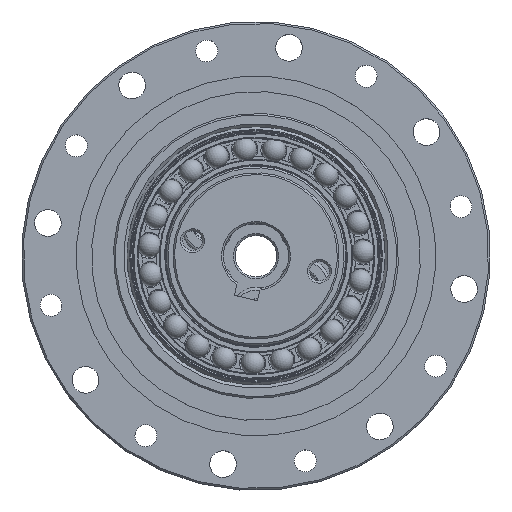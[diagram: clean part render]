
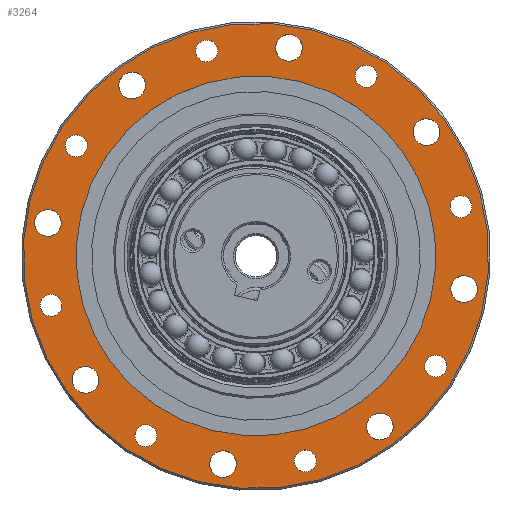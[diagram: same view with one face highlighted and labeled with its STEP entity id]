
A CAD part, top view. The second image highlights one B-rep face of the part: STEP entity #3264.
In plain terms, the highlighted planar face has unit normal (0, 0, 1) as drawn and (0, 1, 0) by its records, which use the part's own axes.
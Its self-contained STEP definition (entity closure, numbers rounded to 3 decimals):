
#2079=PLANE('',#10449);
#2650=FACE_BOUND('',#4513,.T.);
#2651=FACE_BOUND('',#4514,.T.);
#2652=FACE_BOUND('',#4515,.T.);
#2653=FACE_BOUND('',#4516,.T.);
#2654=FACE_BOUND('',#4517,.T.);
#2655=FACE_BOUND('',#4518,.T.);
#2656=FACE_BOUND('',#4519,.T.);
#2657=FACE_BOUND('',#4520,.T.);
#2658=FACE_BOUND('',#4521,.T.);
#2659=FACE_BOUND('',#4522,.T.);
#2660=FACE_BOUND('',#4523,.T.);
#2661=FACE_BOUND('',#4524,.T.);
#2662=FACE_BOUND('',#4525,.T.);
#2663=FACE_BOUND('',#4526,.T.);
#2664=FACE_BOUND('',#4527,.T.);
#2665=FACE_BOUND('',#4528,.T.);
#2666=FACE_BOUND('',#4529,.T.);
#2667=FACE_BOUND('',#4530,.T.);
#3264=ADVANCED_FACE('F28',(#2650,#2651,#2652,#2653,#2654,#2655,#2656,#2657,
#2658,#2659,#2660,#2661,#2662,#2663,#2664,#2665,#2666,#2667),#2079,.T.);
#4513=EDGE_LOOP('',(#7052));
#4514=EDGE_LOOP('',(#7053));
#4515=EDGE_LOOP('',(#7054));
#4516=EDGE_LOOP('',(#7055));
#4517=EDGE_LOOP('',(#7056));
#4518=EDGE_LOOP('',(#7057));
#4519=EDGE_LOOP('',(#7058));
#4520=EDGE_LOOP('',(#7059));
#4521=EDGE_LOOP('',(#7060));
#4522=EDGE_LOOP('',(#7061));
#4523=EDGE_LOOP('',(#7062));
#4524=EDGE_LOOP('',(#7063));
#4525=EDGE_LOOP('',(#7064));
#4526=EDGE_LOOP('',(#7065));
#4527=EDGE_LOOP('',(#7066));
#4528=EDGE_LOOP('',(#7067));
#4529=EDGE_LOOP('',(#7068));
#4530=EDGE_LOOP('',(#7069));
#5121=CIRCLE('',#10346,39.2);
#5149=CIRCLE('',#10399,30.3);
#5151=CIRCLE('',#10402,2.25);
#5153=CIRCLE('',#10405,2.25);
#5155=CIRCLE('',#10408,2.25);
#5157=CIRCLE('',#10411,2.25);
#5159=CIRCLE('',#10414,2.25);
#5161=CIRCLE('',#10417,2.25);
#5163=CIRCLE('',#10420,2.25);
#5165=CIRCLE('',#10423,2.25);
#5167=CIRCLE('',#10426,1.85);
#5169=CIRCLE('',#10429,1.85);
#5171=CIRCLE('',#10432,1.85);
#5173=CIRCLE('',#10435,1.85);
#5175=CIRCLE('',#10438,1.85);
#5177=CIRCLE('',#10441,1.85);
#5179=CIRCLE('',#10444,1.85);
#5181=CIRCLE('',#10448,1.85);
#7052=ORIENTED_EDGE('',*,*,#8732,.T.);
#7053=ORIENTED_EDGE('',*,*,#8824,.T.);
#7054=ORIENTED_EDGE('',*,*,#8818,.T.);
#7055=ORIENTED_EDGE('',*,*,#8812,.T.);
#7056=ORIENTED_EDGE('',*,*,#8806,.T.);
#7057=ORIENTED_EDGE('',*,*,#8800,.T.);
#7058=ORIENTED_EDGE('',*,*,#8794,.T.);
#7059=ORIENTED_EDGE('',*,*,#8788,.T.);
#7060=ORIENTED_EDGE('',*,*,#8782,.T.);
#7061=ORIENTED_EDGE('',*,*,#8779,.F.);
#7062=ORIENTED_EDGE('',*,*,#8785,.T.);
#7063=ORIENTED_EDGE('',*,*,#8791,.T.);
#7064=ORIENTED_EDGE('',*,*,#8797,.T.);
#7065=ORIENTED_EDGE('',*,*,#8803,.T.);
#7066=ORIENTED_EDGE('',*,*,#8809,.T.);
#7067=ORIENTED_EDGE('',*,*,#8815,.T.);
#7068=ORIENTED_EDGE('',*,*,#8821,.T.);
#7069=ORIENTED_EDGE('',*,*,#8826,.T.);
#7800=VERTEX_POINT('',#17392);
#7828=VERTEX_POINT('',#17493);
#7829=VERTEX_POINT('',#17497);
#7831=VERTEX_POINT('',#17503);
#7833=VERTEX_POINT('',#17509);
#7835=VERTEX_POINT('',#17515);
#7837=VERTEX_POINT('',#17521);
#7839=VERTEX_POINT('',#17527);
#7841=VERTEX_POINT('',#17533);
#7843=VERTEX_POINT('',#17539);
#7845=VERTEX_POINT('',#17545);
#7847=VERTEX_POINT('',#17551);
#7849=VERTEX_POINT('',#17557);
#7851=VERTEX_POINT('',#17563);
#7853=VERTEX_POINT('',#17569);
#7855=VERTEX_POINT('',#17575);
#7857=VERTEX_POINT('',#17581);
#7860=VERTEX_POINT('',#17590);
#8732=EDGE_CURVE('',#7800,#7800,#5121,.T.);
#8779=EDGE_CURVE('',#7828,#7828,#5149,.T.);
#8782=EDGE_CURVE('',#7829,#7829,#5151,.T.);
#8785=EDGE_CURVE('',#7831,#7831,#5153,.T.);
#8788=EDGE_CURVE('',#7833,#7833,#5155,.T.);
#8791=EDGE_CURVE('',#7835,#7835,#5157,.T.);
#8794=EDGE_CURVE('',#7837,#7837,#5159,.T.);
#8797=EDGE_CURVE('',#7839,#7839,#5161,.T.);
#8800=EDGE_CURVE('',#7841,#7841,#5163,.T.);
#8803=EDGE_CURVE('',#7843,#7843,#5165,.T.);
#8806=EDGE_CURVE('',#7845,#7845,#5167,.T.);
#8809=EDGE_CURVE('',#7847,#7847,#5169,.T.);
#8812=EDGE_CURVE('',#7849,#7849,#5171,.T.);
#8815=EDGE_CURVE('',#7851,#7851,#5173,.T.);
#8818=EDGE_CURVE('',#7853,#7853,#5175,.T.);
#8821=EDGE_CURVE('',#7855,#7855,#5177,.T.);
#8824=EDGE_CURVE('',#7857,#7857,#5179,.T.);
#8826=EDGE_CURVE('',#7860,#7860,#5181,.T.);
#10346=AXIS2_PLACEMENT_3D('',#17395,#12740,#12741);
#10399=AXIS2_PLACEMENT_3D('',#17494,#12865,#12866);
#10402=AXIS2_PLACEMENT_3D('',#17500,#12872,#12873);
#10405=AXIS2_PLACEMENT_3D('',#17506,#12879,#12880);
#10408=AXIS2_PLACEMENT_3D('',#17512,#12886,#12887);
#10411=AXIS2_PLACEMENT_3D('',#17518,#12893,#12894);
#10414=AXIS2_PLACEMENT_3D('',#17524,#12900,#12901);
#10417=AXIS2_PLACEMENT_3D('',#17530,#12907,#12908);
#10420=AXIS2_PLACEMENT_3D('',#17536,#12914,#12915);
#10423=AXIS2_PLACEMENT_3D('',#17542,#12921,#12922);
#10426=AXIS2_PLACEMENT_3D('',#17548,#12928,#12929);
#10429=AXIS2_PLACEMENT_3D('',#17554,#12935,#12936);
#10432=AXIS2_PLACEMENT_3D('',#17560,#12942,#12943);
#10435=AXIS2_PLACEMENT_3D('',#17566,#12949,#12950);
#10438=AXIS2_PLACEMENT_3D('',#17572,#12956,#12957);
#10441=AXIS2_PLACEMENT_3D('',#17578,#12963,#12964);
#10444=AXIS2_PLACEMENT_3D('',#17584,#12970,#12971);
#10448=AXIS2_PLACEMENT_3D('',#17589,#12978,#12979);
#10449=AXIS2_PLACEMENT_3D('',#17591,#12980,#12981);
#12740=DIRECTION('',(0.,1.,0.));
#12741=DIRECTION('',(-1.,0.,0.));
#12865=DIRECTION('',(0.,1.,0.));
#12866=DIRECTION('',(-1.,0.,0.));
#12872=DIRECTION('',(0.,-1.,0.));
#12873=DIRECTION('',(1.,0.,0.));
#12879=DIRECTION('',(0.,-1.,0.));
#12880=DIRECTION('',(0.707,0.,0.707));
#12886=DIRECTION('',(0.,-1.,0.));
#12887=DIRECTION('',(0.,0.,1.));
#12893=DIRECTION('',(0.,-1.,0.));
#12894=DIRECTION('',(-0.707,0.,0.707));
#12900=DIRECTION('',(0.,-1.,0.));
#12901=DIRECTION('',(-1.,0.,0.));
#12907=DIRECTION('',(0.,-1.,0.));
#12908=DIRECTION('',(-0.707,0.,-0.707));
#12914=DIRECTION('',(0.,-1.,0.));
#12915=DIRECTION('',(0.,0.,-1.));
#12921=DIRECTION('',(0.,-1.,0.));
#12922=DIRECTION('',(0.707,0.,-0.707));
#12928=DIRECTION('',(0.,-1.,0.));
#12929=DIRECTION('',(1.,0.,0.));
#12935=DIRECTION('',(0.,-1.,0.));
#12936=DIRECTION('',(0.707,0.,0.707));
#12942=DIRECTION('',(0.,-1.,0.));
#12943=DIRECTION('',(0.,0.,1.));
#12949=DIRECTION('',(0.,-1.,0.));
#12950=DIRECTION('',(-0.707,0.,0.707));
#12956=DIRECTION('',(0.,-1.,0.));
#12957=DIRECTION('',(-1.,0.,0.));
#12963=DIRECTION('',(0.,-1.,0.));
#12964=DIRECTION('',(-0.707,0.,-0.707));
#12970=DIRECTION('',(0.,-1.,0.));
#12971=DIRECTION('',(0.,0.,-1.));
#12978=DIRECTION('',(0.,-1.,0.));
#12979=DIRECTION('',(0.707,0.,-0.707));
#12980=DIRECTION('',(0.,1.,0.));
#12981=DIRECTION('',(-1.,0.,0.));
#17392=CARTESIAN_POINT('',(-39.2,22.8,0.));
#17395=CARTESIAN_POINT('',(0.,22.8,0.));
#17493=CARTESIAN_POINT('',(-30.3,22.8,0.));
#17494=CARTESIAN_POINT('',(0.,22.8,0.));
#17497=CARTESIAN_POINT('',(-33.25,22.8,0.));
#17500=CARTESIAN_POINT('',(-35.5,22.8,0.));
#17503=CARTESIAN_POINT('',(-23.511,22.8,-23.511));
#17506=CARTESIAN_POINT('',(-25.102,22.8,-25.102));
#17509=CARTESIAN_POINT('',(0.,22.8,-33.25));
#17512=CARTESIAN_POINT('',(0.,22.8,-35.5));
#17515=CARTESIAN_POINT('',(23.511,22.8,-23.511));
#17518=CARTESIAN_POINT('',(25.102,22.8,-25.102));
#17521=CARTESIAN_POINT('',(33.25,22.8,0.));
#17524=CARTESIAN_POINT('',(35.5,22.8,0.));
#17527=CARTESIAN_POINT('',(23.511,22.8,23.511));
#17530=CARTESIAN_POINT('',(25.102,22.8,25.102));
#17533=CARTESIAN_POINT('',(0.,22.8,33.25));
#17536=CARTESIAN_POINT('',(0.,22.8,35.5));
#17539=CARTESIAN_POINT('',(-23.511,22.8,23.511));
#17542=CARTESIAN_POINT('',(-25.102,22.8,25.102));
#17545=CARTESIAN_POINT('',(-30.948,22.8,-13.585));
#17548=CARTESIAN_POINT('',(-32.798,22.8,-13.585));
#17551=CARTESIAN_POINT('',(-12.277,22.8,-31.489));
#17554=CARTESIAN_POINT('',(-13.585,22.8,-32.798));
#17557=CARTESIAN_POINT('',(13.585,22.8,-30.948));
#17560=CARTESIAN_POINT('',(13.585,22.8,-32.798));
#17563=CARTESIAN_POINT('',(31.489,22.8,-12.277));
#17566=CARTESIAN_POINT('',(32.798,22.8,-13.585));
#17569=CARTESIAN_POINT('',(30.948,22.8,13.585));
#17572=CARTESIAN_POINT('',(32.798,22.8,13.585));
#17575=CARTESIAN_POINT('',(12.277,22.8,31.489));
#17578=CARTESIAN_POINT('',(13.585,22.8,32.798));
#17581=CARTESIAN_POINT('',(-13.585,22.8,30.948));
#17584=CARTESIAN_POINT('',(-13.585,22.8,32.798));
#17589=CARTESIAN_POINT('',(-32.798,22.8,13.585));
#17590=CARTESIAN_POINT('',(-31.489,22.8,12.277));
#17591=CARTESIAN_POINT('',(0.,22.8,0.));
